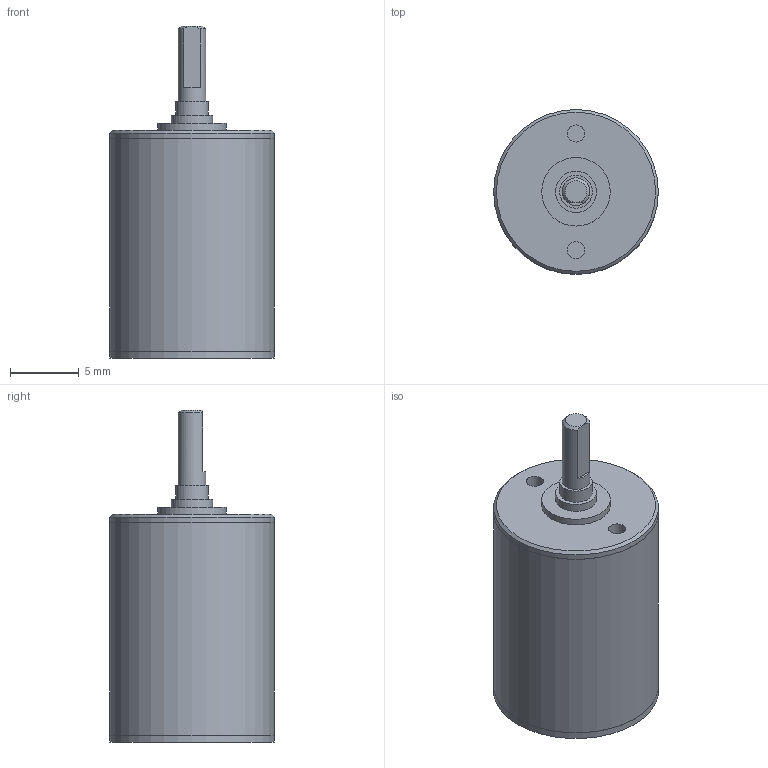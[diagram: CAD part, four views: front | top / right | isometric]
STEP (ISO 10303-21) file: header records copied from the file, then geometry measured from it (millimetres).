
FILE_DESCRIPTION(/* description */ (''),/* implementation_level */ '2;1');
FILE_NAME(/* name */ '12-5_4.stp',/* time_stamp */ '2016-08-24T11:32:28+02:00',/* author */ ('DR. FRITZ FAULHABER GmbH & Co. KG'),/* organization */ ('DR. FRITZ FAULHABER GmbH & Co. KG'),/* preprocessor_version */ 'ST-DEVELOPER v16',/* originating_system */ 'SIEMENS PLM Software NX 10.0',/* authorisation */ '');
FILE_SCHEMA (('AUTOMOTIVE_DESIGN { 1 0 10303 214 3 1 1 1 }'));
Length unit declared in the file: millimetre
Products named in the file (1): H00000603_A
Bounding box: 12 x 12 x 24.2 mm (x, y, z)
Volume: 1833.8 mm3; surface area: 990 mm2
Topology: 1 solids, 1 shells, 35 faces, 58 edges, 38 vertices
Faces by surface type: plane 17, cylinder 15, cone 3
Full cylindrical faces by diameter (mm): 1.25 x2, 2 x1, 2.4 x1, 2.48 x1, 2.6 x1, 3 x1, 5 x2, 6 x1, 11.99 x2, 12 x3
Entity records: 749 total; most frequent: DIRECTION 141, CARTESIAN_POINT 121, ORIENTED_EDGE 76, AXIS2_PLACEMENT_3D 69, EDGE_LOOP 65, FACE_BOUND 58, EDGE_CURVE 38, ADVANCED_FACE 35
